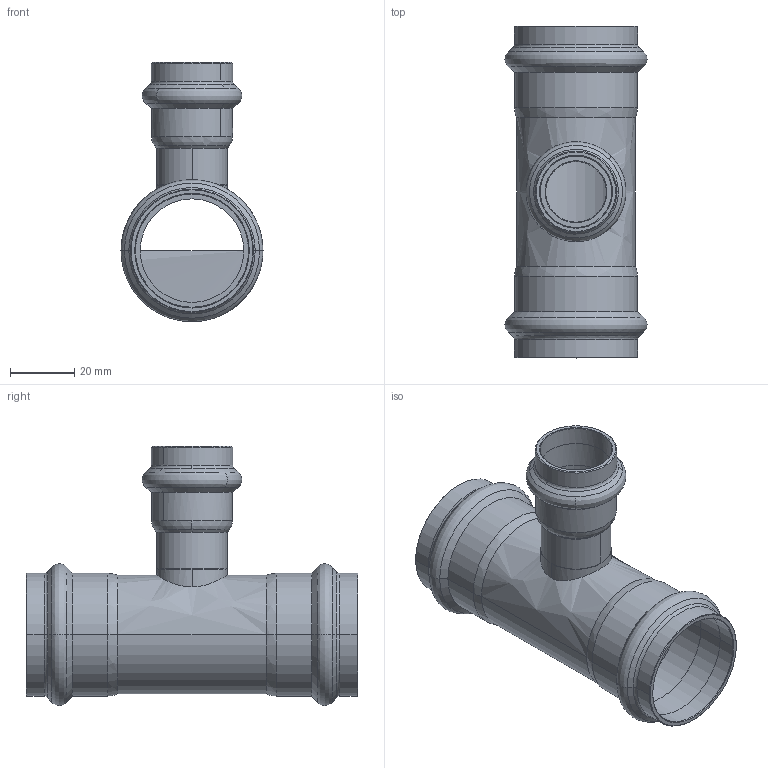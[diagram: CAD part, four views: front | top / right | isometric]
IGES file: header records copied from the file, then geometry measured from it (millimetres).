
Start section: Elysium IGES Interface
Global section: file name: C:\3d modellen sudo\C-Pr VP\SP8130RV\8130RVW352235.igs; native system: CoCreate Modeling 17.00A  17-Jun-2010; preprocessor: CoCreate IGES_3D V2.2; author: Unknown; organization: Unknown; date: 20130131.144141; units: millimetre
Bounding box: 44.3 x 103.51 x 80.88 mm (x, y, z)
Volume: 27476.6 mm3; surface area: 31212.4 mm2
Topology: 1 solids, 1 shells, 128 faces, 299 edges, 173 vertices
Faces by surface type: bspline 128
